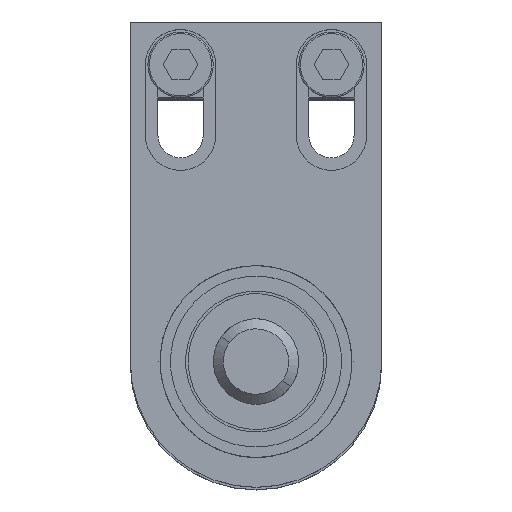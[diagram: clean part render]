
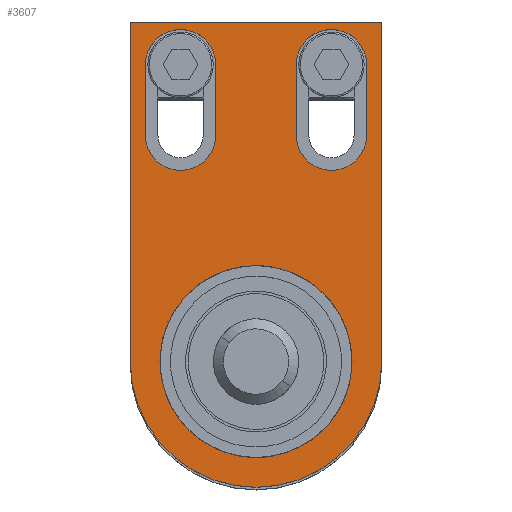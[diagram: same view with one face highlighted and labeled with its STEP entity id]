
A CAD part, top view. The second image highlights one B-rep face of the part: STEP entity #3607.
In plain terms, the highlighted planar face has unit normal (0, 0, 1).
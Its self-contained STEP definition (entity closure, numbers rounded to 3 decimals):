
#6 = AXIS2_PLACEMENT_3D ( 'NONE', #4175, #1427, #5609 ) ;
#16 = CARTESIAN_POINT ( 'NONE',  ( 0., 0., 6. ) ) ;
#62 = ORIENTED_EDGE ( 'NONE', *, *, #2269, .T. ) ;
#246 = CARTESIAN_POINT ( 'NONE',  ( -22., 45., 6. ) ) ;
#254 = DIRECTION ( 'NONE',  ( 1., 0., 0. ) ) ;
#295 = VERTEX_POINT ( 'NONE', #4113 ) ;
#304 = EDGE_CURVE ( 'NONE', #3782, #1021, #3978, .T. ) ;
#415 = CIRCLE ( 'NONE', #3349, 19.079 ) ;
#454 = CARTESIAN_POINT ( 'NONE',  ( -25., 0., 6. ) ) ;
#476 = VECTOR ( 'NONE', #3722, 1000. ) ;
#486 = CARTESIAN_POINT ( 'NONE',  ( -8., 45., 6. ) ) ;
#621 = CARTESIAN_POINT ( 'NONE',  ( 15., 45., 6. ) ) ;
#626 = LINE ( 'NONE', #5482, #476 ) ;
#672 = LINE ( 'NONE', #5838, #4150 ) ;
#735 = DIRECTION ( 'NONE',  ( 1., 0., 0. ) ) ;
#764 = DIRECTION ( 'NONE',  ( 0., 0., 1. ) ) ;
#768 = FACE_BOUND ( 'NONE', #5920, .T. ) ;
#838 = ORIENTED_EDGE ( 'NONE', *, *, #4945, .F. ) ;
#932 = CARTESIAN_POINT ( 'NONE',  ( 8., 59., 6. ) ) ;
#992 = DIRECTION ( 'NONE',  ( 1., 0., 0. ) ) ;
#1011 = DIRECTION ( 'NONE',  ( -1., 0., 0. ) ) ;
#1021 = VERTEX_POINT ( 'NONE', #1977 ) ;
#1031 = CARTESIAN_POINT ( 'NONE',  ( 25., 67.5, 6. ) ) ;
#1104 = AXIS2_PLACEMENT_3D ( 'NONE', #16, #6000, #3713 ) ;
#1201 = DIRECTION ( 'NONE',  ( 0., 1., 0. ) ) ;
#1226 = EDGE_CURVE ( 'NONE', #4805, #5722, #415, .T. ) ;
#1269 = VECTOR ( 'NONE', #1011, 1000. ) ;
#1344 = DIRECTION ( 'NONE',  ( 0., -1., 0. ) ) ;
#1375 = DIRECTION ( 'NONE',  ( 0., 0., 1. ) ) ;
#1427 = DIRECTION ( 'NONE',  ( 0., 0., 1. ) ) ;
#1470 = CARTESIAN_POINT ( 'NONE',  ( 0., 0., 6. ) ) ;
#1559 = DIRECTION ( 'NONE',  ( 0., 0., 1. ) ) ;
#1634 = AXIS2_PLACEMENT_3D ( 'NONE', #1470, #4298, #3372 ) ;
#1663 = EDGE_CURVE ( 'NONE', #6015, #1684, #4262, .T. ) ;
#1684 = VERTEX_POINT ( 'NONE', #3894 ) ;
#1689 = CARTESIAN_POINT ( 'NONE',  ( 0., 0., 6. ) ) ;
#1895 = VECTOR ( 'NONE', #1201, 1000. ) ;
#1901 = FACE_OUTER_BOUND ( 'NONE', #4865, .T. ) ;
#1977 = CARTESIAN_POINT ( 'NONE',  ( -25., 0., 6. ) ) ;
#2035 = CIRCLE ( 'NONE', #6, 7. ) ;
#2062 = EDGE_CURVE ( 'NONE', #295, #4409, #3450, .T. ) ;
#2066 = EDGE_CURVE ( 'NONE', #5070, #2827, #2933, .T. ) ;
#2094 = ORIENTED_EDGE ( 'NONE', *, *, #4467, .T. ) ;
#2162 = VERTEX_POINT ( 'NONE', #486 ) ;
#2269 = EDGE_CURVE ( 'NONE', #4420, #3782, #4184, .T. ) ;
#2275 = ORIENTED_EDGE ( 'NONE', *, *, #1663, .F. ) ;
#2313 = CARTESIAN_POINT ( 'NONE',  ( -22., 59., 6. ) ) ;
#2325 = AXIS2_PLACEMENT_3D ( 'NONE', #621, #1559, #2946 ) ;
#2351 = EDGE_CURVE ( 'NONE', #3107, #5070, #5554, .T. ) ;
#2452 = ORIENTED_EDGE ( 'NONE', *, *, #2062, .F. ) ;
#2467 = DIRECTION ( 'NONE',  ( 1., 0., 0. ) ) ;
#2586 = ORIENTED_EDGE ( 'NONE', *, *, #4314, .F. ) ;
#2621 = LINE ( 'NONE', #4998, #3513 ) ;
#2631 = CIRCLE ( 'NONE', #5563, 19.079 ) ;
#2776 = DIRECTION ( 'NONE',  ( 0., -1., 0. ) ) ;
#2827 = VERTEX_POINT ( 'NONE', #246 ) ;
#2884 = ORIENTED_EDGE ( 'NONE', *, *, #4213, .F. ) ;
#2901 = EDGE_CURVE ( 'NONE', #1684, #295, #626, .T. ) ;
#2933 = LINE ( 'NONE', #2313, #5192 ) ;
#2946 = DIRECTION ( 'NONE',  ( 1., 0., 0. ) ) ;
#2979 = DIRECTION ( 'NONE',  ( 0., 0., 1. ) ) ;
#3041 = EDGE_LOOP ( 'NONE', ( #2452, #5222, #2275, #2884 ) ) ;
#3060 = CIRCLE ( 'NONE', #1634, 25. ) ;
#3107 = VERTEX_POINT ( 'NONE', #3743 ) ;
#3165 = EDGE_CURVE ( 'NONE', #5722, #4805, #2631, .T. ) ;
#3243 = ORIENTED_EDGE ( 'NONE', *, *, #1226, .F. ) ;
#3289 = FACE_BOUND ( 'NONE', #3041, .T. ) ;
#3328 = ORIENTED_EDGE ( 'NONE', *, *, #2066, .F. ) ;
#3349 = AXIS2_PLACEMENT_3D ( 'NONE', #1689, #764, #254 ) ;
#3372 = DIRECTION ( 'NONE',  ( 1., 0., 0. ) ) ;
#3450 = CIRCLE ( 'NONE', #4674, 7. ) ;
#3513 = VECTOR ( 'NONE', #1344, 1000. ) ;
#3562 = ORIENTED_EDGE ( 'NONE', *, *, #2351, .F. ) ;
#3607 = ADVANCED_FACE ( 'NONE', ( #3289, #768, #5104, #1901 ), #3689, .T. ) ;
#3689 = PLANE ( 'NONE',  #1104 ) ;
#3713 = DIRECTION ( 'NONE',  ( 1., 0., 0. ) ) ;
#3722 = DIRECTION ( 'NONE',  ( 0., 1., 0. ) ) ;
#3743 = CARTESIAN_POINT ( 'NONE',  ( -8., 59., 6. ) ) ;
#3769 = CARTESIAN_POINT ( 'NONE',  ( 15., 59., 6. ) ) ;
#3782 = VERTEX_POINT ( 'NONE', #4684 ) ;
#3894 = CARTESIAN_POINT ( 'NONE',  ( 22., 45., 6. ) ) ;
#3978 = LINE ( 'NONE', #454, #5859 ) ;
#4064 = CARTESIAN_POINT ( 'NONE',  ( -8., 59., 6. ) ) ;
#4113 = CARTESIAN_POINT ( 'NONE',  ( 22., 59., 6. ) ) ;
#4129 = AXIS2_PLACEMENT_3D ( 'NONE', #5308, #2979, #735 ) ;
#4150 = VECTOR ( 'NONE', #5514, 1000. ) ;
#4175 = CARTESIAN_POINT ( 'NONE',  ( -15., 45., 6. ) ) ;
#4184 = LINE ( 'NONE', #1031, #1269 ) ;
#4213 = EDGE_CURVE ( 'NONE', #4409, #6015, #2621, .T. ) ;
#4262 = CIRCLE ( 'NONE', #2325, 7. ) ;
#4298 = DIRECTION ( 'NONE',  ( 0., 0., 1. ) ) ;
#4314 = EDGE_CURVE ( 'NONE', #2827, #2162, #2035, .T. ) ;
#4409 = VERTEX_POINT ( 'NONE', #932 ) ;
#4420 = VERTEX_POINT ( 'NONE', #5076 ) ;
#4466 = CARTESIAN_POINT ( 'NONE',  ( 19.079, 0., 6. ) ) ;
#4467 = EDGE_CURVE ( 'NONE', #1021, #4630, #3060, .T. ) ;
#4564 = ORIENTED_EDGE ( 'NONE', *, *, #304, .T. ) ;
#4630 = VERTEX_POINT ( 'NONE', #4811 ) ;
#4674 = AXIS2_PLACEMENT_3D ( 'NONE', #3769, #1375, #992 ) ;
#4684 = CARTESIAN_POINT ( 'NONE',  ( -25., 67.5, 6. ) ) ;
#4805 = VERTEX_POINT ( 'NONE', #4466 ) ;
#4811 = CARTESIAN_POINT ( 'NONE',  ( 25., 0., 6. ) ) ;
#4865 = EDGE_LOOP ( 'NONE', ( #2094, #5829, #62, #4564 ) ) ;
#4945 = EDGE_CURVE ( 'NONE', #2162, #3107, #4954, .T. ) ;
#4954 = LINE ( 'NONE', #4064, #1895 ) ;
#4998 = CARTESIAN_POINT ( 'NONE',  ( 8., 59., 6. ) ) ;
#5070 = VERTEX_POINT ( 'NONE', #5947 ) ;
#5076 = CARTESIAN_POINT ( 'NONE',  ( 25., 67.5, 6. ) ) ;
#5078 = DIRECTION ( 'NONE',  ( 0., -1., 0. ) ) ;
#5104 = FACE_BOUND ( 'NONE', #5931, .T. ) ;
#5118 = CARTESIAN_POINT ( 'NONE',  ( 8., 45., 6. ) ) ;
#5192 = VECTOR ( 'NONE', #5078, 1000. ) ;
#5216 = DIRECTION ( 'NONE',  ( 0., 0., 1. ) ) ;
#5222 = ORIENTED_EDGE ( 'NONE', *, *, #2901, .F. ) ;
#5255 = CARTESIAN_POINT ( 'NONE',  ( 0., 0., 6. ) ) ;
#5308 = CARTESIAN_POINT ( 'NONE',  ( -15., 59., 6. ) ) ;
#5333 = CARTESIAN_POINT ( 'NONE',  ( -19.079, 0., 6. ) ) ;
#5482 = CARTESIAN_POINT ( 'NONE',  ( 22., 59., 6. ) ) ;
#5514 = DIRECTION ( 'NONE',  ( 0., 1., 0. ) ) ;
#5554 = CIRCLE ( 'NONE', #4129, 7. ) ;
#5563 = AXIS2_PLACEMENT_3D ( 'NONE', #5255, #5216, #2467 ) ;
#5572 = ORIENTED_EDGE ( 'NONE', *, *, #3165, .F. ) ;
#5609 = DIRECTION ( 'NONE',  ( 1., 0., 0. ) ) ;
#5722 = VERTEX_POINT ( 'NONE', #5333 ) ;
#5829 = ORIENTED_EDGE ( 'NONE', *, *, #5906, .T. ) ;
#5838 = CARTESIAN_POINT ( 'NONE',  ( 25., 0., 6. ) ) ;
#5859 = VECTOR ( 'NONE', #2776, 1000. ) ;
#5906 = EDGE_CURVE ( 'NONE', #4630, #4420, #672, .T. ) ;
#5920 = EDGE_LOOP ( 'NONE', ( #3562, #838, #2586, #3328 ) ) ;
#5931 = EDGE_LOOP ( 'NONE', ( #5572, #3243 ) ) ;
#5947 = CARTESIAN_POINT ( 'NONE',  ( -22., 59., 6. ) ) ;
#6000 = DIRECTION ( 'NONE',  ( 0., 0., 1. ) ) ;
#6015 = VERTEX_POINT ( 'NONE', #5118 ) ;
